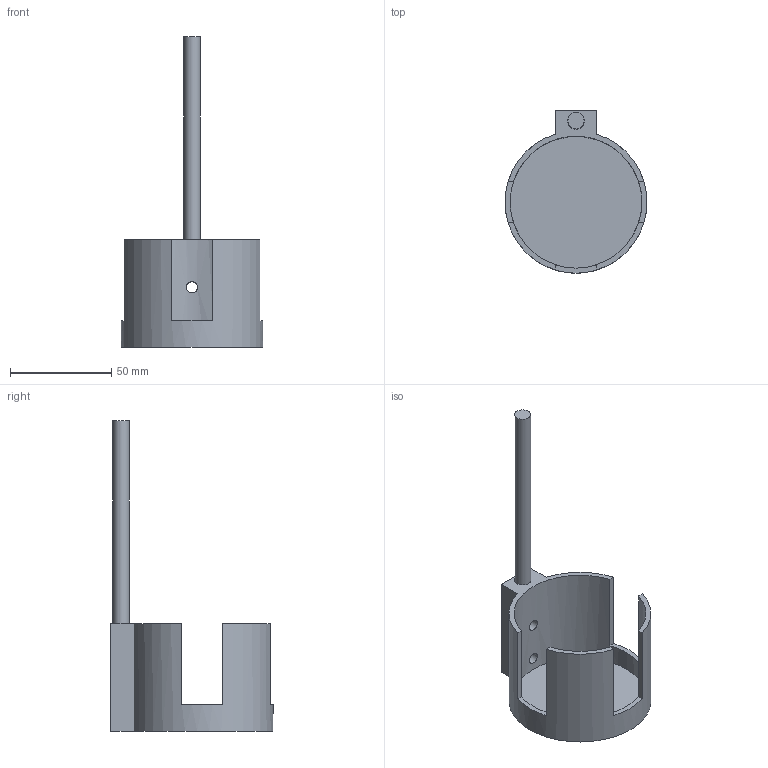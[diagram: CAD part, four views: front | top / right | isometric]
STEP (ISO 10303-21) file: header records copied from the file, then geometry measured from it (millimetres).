
FILE_DESCRIPTION(/* description */ (''),/* implementation_level */ '2;1');
FILE_NAME(/* name */ 'cup_hold_ring_2 v7.step',/* time_stamp */ '2026-04-10T14:28:39+02:00',/* author */ (''),/* organization */ (''),/* preprocessor_version */ 'ST-DEVELOPER v20.1',/* originating_system */ 'Autodesk Translation Framework v14.24.0.0',/* authorisation */ '');
FILE_SCHEMA (('AUTOMOTIVE_DESIGN { 1 0 10303 214 3 1 1 }'));
Length unit declared in the file: millimetre
Products named in the file (1): (Niezapisany)
Bounding box: 70 x 80 x 153 mm (x, y, z)
Volume: 46303.1 mm3; surface area: 31480.7 mm2
Topology: 2 solids, 2 shells, 47 faces, 128 edges, 86 vertices
Faces by surface type: plane 37, cylinder 10
Full cylindrical faces by diameter (mm): 5.5 x6, 8 x1, 8.2 x1, 65 x1
Entity records: 1640 total; most frequent: CARTESIAN_POINT 365, ORIENTED_EDGE 256, DIRECTION 250, EDGE_CURVE 128, LINE 88, VECTOR 88, VERTEX_POINT 86, AXIS2_PLACEMENT_3D 81
